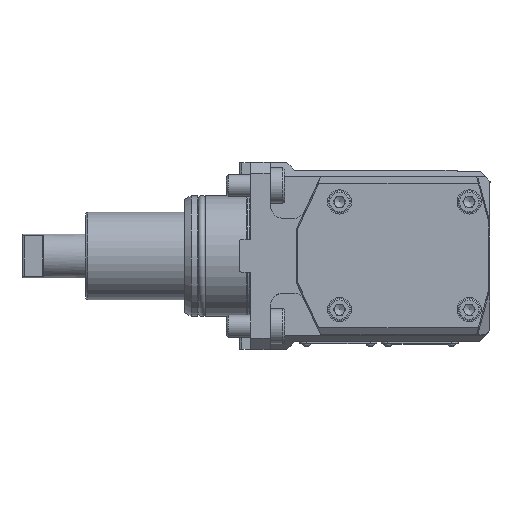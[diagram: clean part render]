
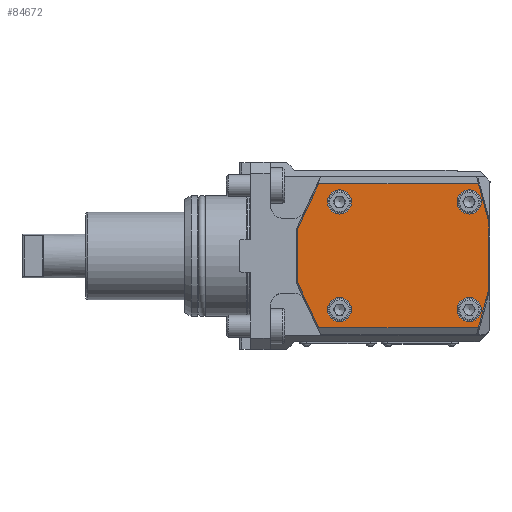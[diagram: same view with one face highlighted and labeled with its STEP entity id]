
A CAD part, top view. The second image highlights one B-rep face of the part: STEP entity #84672.
In plain terms, the highlighted planar face has unit normal (0, 0, 1).
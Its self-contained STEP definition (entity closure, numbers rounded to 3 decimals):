
#40626=VECTOR('',#61893,1.);
#40630=VECTOR('',#61899,1.);
#40632=VECTOR('',#61903,1.);
#40635=VECTOR('',#61908,1.);
#40638=VECTOR('',#61917,1.);
#40641=VECTOR('',#61922,1.);
#40642=VECTOR('',#61923,1.);
#40643=VECTOR('',#61924,1.);
#42291=LINE('',#69745,#40626);
#42295=LINE('',#69752,#40630);
#42297=LINE('',#69756,#40632);
#42300=LINE('',#69762,#40635);
#42303=LINE('',#69769,#40638);
#42306=LINE('',#69775,#40641);
#42307=LINE('',#69777,#40642);
#42308=LINE('',#69778,#40643);
#44346=ORIENTED_EDGE('',*,*,#54582,.F.);
#44347=ORIENTED_EDGE('',*,*,#54586,.F.);
#44348=ORIENTED_EDGE('',*,*,#54588,.F.);
#44349=ORIENTED_EDGE('',*,*,#54591,.F.);
#44350=ORIENTED_EDGE('',*,*,#54594,.F.);
#44351=ORIENTED_EDGE('',*,*,#54597,.F.);
#44352=ORIENTED_EDGE('',*,*,#54598,.F.);
#44353=ORIENTED_EDGE('',*,*,#54599,.F.);
#44354=ORIENTED_EDGE('',*,*,#54600,.F.);
#44355=ORIENTED_EDGE('',*,*,#54601,.F.);
#44356=ORIENTED_EDGE('',*,*,#54602,.F.);
#44357=ORIENTED_EDGE('',*,*,#54603,.F.);
#50932=CIRCLE('',#81128,5.5);
#50933=CIRCLE('',#81129,5.5);
#50934=CIRCLE('',#81130,5.5);
#50935=CIRCLE('',#81131,5.5);
#52063=VERTEX_POINT('',#69742);
#52064=VERTEX_POINT('',#69744);
#52066=VERTEX_POINT('',#69750);
#52067=VERTEX_POINT('',#69754);
#52069=VERTEX_POINT('',#69760);
#52070=VERTEX_POINT('',#69768);
#52072=VERTEX_POINT('',#69774);
#52073=VERTEX_POINT('',#69776);
#52074=VERTEX_POINT('',#69779);
#52075=VERTEX_POINT('',#69781);
#52076=VERTEX_POINT('',#69783);
#52077=VERTEX_POINT('',#69785);
#54582=EDGE_CURVE('',#52063,#52064,#42291,.T.);
#54586=EDGE_CURVE('',#52066,#52063,#42295,.T.);
#54588=EDGE_CURVE('',#52067,#52066,#42297,.T.);
#54591=EDGE_CURVE('',#52069,#52067,#42300,.T.);
#54594=EDGE_CURVE('',#52070,#52069,#42303,.T.);
#54597=EDGE_CURVE('',#52072,#52070,#42306,.T.);
#54598=EDGE_CURVE('',#52073,#52072,#42307,.T.);
#54599=EDGE_CURVE('',#52064,#52073,#42308,.T.);
#54600=EDGE_CURVE('',#52074,#52074,#50932,.T.);
#54601=EDGE_CURVE('',#52075,#52075,#50933,.T.);
#54602=EDGE_CURVE('',#52076,#52076,#50934,.T.);
#54603=EDGE_CURVE('',#52077,#52077,#50935,.T.);
#57999=EDGE_LOOP('',(#44346,#44347,#44348,#44349,#44350,#44351,#44352,#44353));
#58000=EDGE_LOOP('',(#44354));
#58001=EDGE_LOOP('',(#44355));
#58002=EDGE_LOOP('',(#44356));
#58003=EDGE_LOOP('',(#44357));
#59701=FACE_BOUND('',#57999,.T.);
#59702=FACE_BOUND('',#58000,.T.);
#59703=FACE_BOUND('',#58001,.T.);
#59704=FACE_BOUND('',#58002,.T.);
#59705=FACE_BOUND('',#58003,.T.);
#61893=DIRECTION('',(72.709,0.,0.));
#61899=DIRECTION('',(9.524,20.425,0.));
#61903=DIRECTION('',(0.,24.599,0.));
#61908=DIRECTION('',(-9.524,20.425,0.));
#61917=DIRECTION('',(-72.709,0.,0.));
#61920=DIRECTION('',(0.,0.,1.));
#61921=DIRECTION('',(0.,-1.,0.));
#61922=DIRECTION('',(-4.767,-17.79,0.));
#61923=DIRECTION('',(0.,-29.868,0.));
#61924=DIRECTION('',(4.767,-17.79,0.));
#61925=DIRECTION('',(0.,0.,1.));
#61926=DIRECTION('',(5.5,0.,0.));
#61927=DIRECTION('',(0.,0.,1.));
#61928=DIRECTION('',(5.5,0.,0.));
#61929=DIRECTION('',(0.,0.,1.));
#61930=DIRECTION('',(5.5,0.,0.));
#61931=DIRECTION('',(0.,0.,1.));
#61932=DIRECTION('',(5.5,0.,0.));
#69742=CARTESIAN_POINT('',(189.443,244.12,38.306));
#69744=CARTESIAN_POINT('',(262.152,244.12,38.306));
#69745=CARTESIAN_POINT('',(189.443,244.12,38.306));
#69750=CARTESIAN_POINT('',(179.919,223.695,38.306));
#69752=CARTESIAN_POINT('',(179.919,223.695,38.306));
#69754=CARTESIAN_POINT('',(179.919,199.096,38.306));
#69756=CARTESIAN_POINT('',(179.919,199.096,38.306));
#69760=CARTESIAN_POINT('',(189.443,178.671,38.306));
#69762=CARTESIAN_POINT('',(189.443,178.671,38.306));
#69768=CARTESIAN_POINT('',(262.152,178.671,38.306));
#69769=CARTESIAN_POINT('',(262.152,178.671,38.306));
#69773=CARTESIAN_POINT('',(267.419,196.395,38.306));
#69774=CARTESIAN_POINT('',(266.919,196.461,38.306));
#69775=CARTESIAN_POINT('',(266.919,196.461,38.306));
#69776=CARTESIAN_POINT('',(266.919,226.33,38.306));
#69777=CARTESIAN_POINT('',(266.919,226.33,38.306));
#69778=CARTESIAN_POINT('',(262.152,244.12,38.306));
#69779=CARTESIAN_POINT('',(263.419,186.895,38.306));
#69780=CARTESIAN_POINT('',(257.919,186.895,38.306));
#69781=CARTESIAN_POINT('',(263.419,235.895,38.306));
#69782=CARTESIAN_POINT('',(257.919,235.895,38.306));
#69783=CARTESIAN_POINT('',(204.419,186.895,38.306));
#69784=CARTESIAN_POINT('',(198.919,186.895,38.306));
#69785=CARTESIAN_POINT('',(204.419,235.895,38.306));
#69786=CARTESIAN_POINT('',(198.919,235.895,38.306));
#81127=AXIS2_PLACEMENT_3D('',#69773,#61920,#61921);
#81128=AXIS2_PLACEMENT_3D('',#69780,#61925,#61926);
#81129=AXIS2_PLACEMENT_3D('',#69782,#61927,#61928);
#81130=AXIS2_PLACEMENT_3D('',#69784,#61929,#61930);
#81131=AXIS2_PLACEMENT_3D('',#69786,#61931,#61932);
#83846=PLANE('',#81127);
#84672=ADVANCED_FACE('',(#59701,#59702,#59703,#59704,#59705),#83846,.T.);
